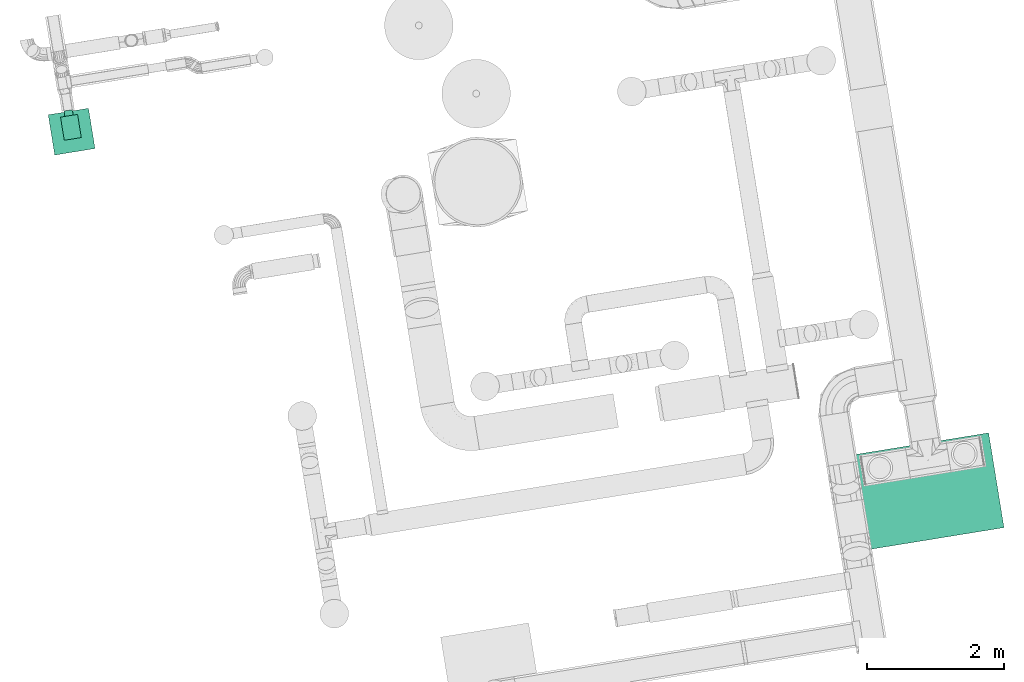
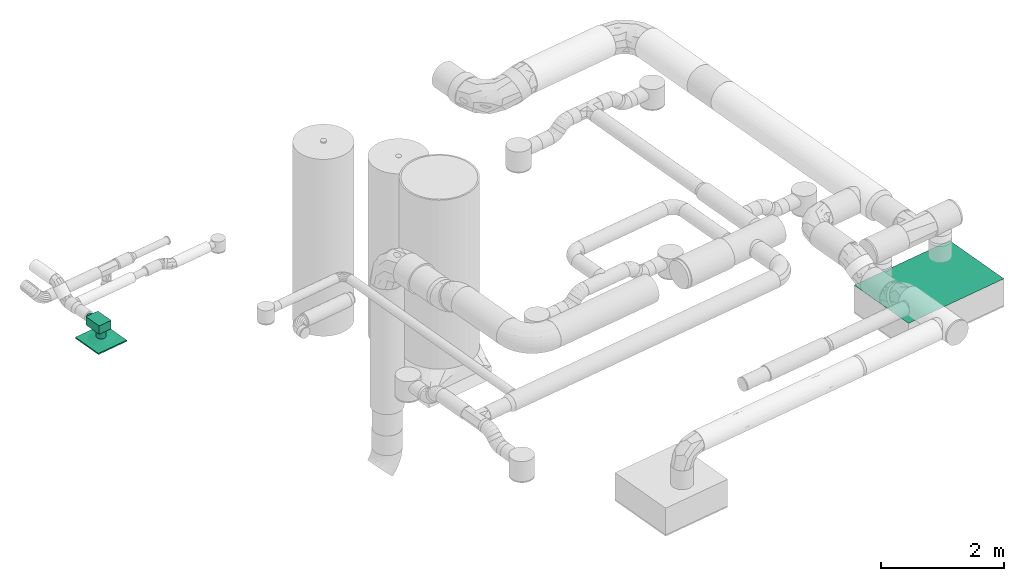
# One storey, part 27 of 39: 1 flow fitting, 1 flow terminal.
"""IFC2X3 building model written with IfcOpenShell, lengths in millimetres."""

from ifc_helpers import new_model, entity, si_unit, converted_unit, derived_unit, direction, frame, origin, origin_with_axes, place, context, subcontext, project, spatial, faceted_brep, source, transform, mapped, material, type_object, element, save


model = new_model("IFC2X3")

# Units and contexts
model_context = context("Model", 3, precision=0.01, world=origin(), true_north=direction((6.12323399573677e-17, 1.0)))
plan_context = context("Plan", 3, precision=1e-05, world=origin_with_axes())
body_context = subcontext(model_context, "Body", "Model", "MODEL_VIEW")
ifc_project = project(units=[converted_unit("PLANEANGLEUNIT", "DEGREE", entity("IfcPositiveLengthMeasure", 0.0174532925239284), si_unit("PLANEANGLEUNIT", "RADIAN"), dimensions=[0, 0, 0, 0, 0, 0, 0]), si_unit("AREAUNIT", "SQUARE_METRE"), si_unit("LENGTHUNIT", "METRE", prefix="MILLI"), si_unit("MASSUNIT", "GRAM", prefix="KILO"), si_unit("POWERUNIT", "WATT"), si_unit("PRESSUREUNIT", "PASCAL", prefix="KILO"), si_unit("FORCEUNIT", "NEWTON", prefix="KILO"), si_unit("ELECTRICVOLTAGEUNIT", "VOLT"), si_unit("ELECTRICCURRENTUNIT", "AMPERE"), si_unit("THERMODYNAMICTEMPERATUREUNIT", "DEGREE_CELSIUS"), si_unit("TIMEUNIT", "SECOND"), si_unit("VOLUMEUNIT", "CUBIC_METRE"), derived_unit("LINEARVELOCITYUNIT", [(si_unit("LENGTHUNIT", "METRE"), 1), (si_unit("TIMEUNIT", "SECOND"), -1)]), derived_unit("VOLUMETRICFLOWRATEUNIT", [(si_unit("VOLUMEUNIT", "CUBIC_METRE"), 1), (si_unit("TIMEUNIT", "SECOND"), -1)]), derived_unit("THERMALTRANSMITTANCEUNIT", [(si_unit("POWERUNIT", "WATT"), 1), (si_unit("THERMODYNAMICTEMPERATUREUNIT", "KELVIN"), -1), (si_unit("AREAUNIT", "SQUARE_METRE"), -1)]), derived_unit("SOUNDPRESSUREUNIT", [(si_unit("PRESSUREUNIT", "PASCAL"), 1)])], contexts=[model_context, plan_context])

# Site, building, storey
site_placement = place(None, frame((-0.00071070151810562, 0.00438415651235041, 0.0), z_axis=(0.0, 0.0, 1.0), x_axis=(-0.160236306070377, 0.987078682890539, 0.0)))
site = spatial("IfcSite", under=ifc_project, at=site_placement, Name="Default", CompositionType="ELEMENT")
building_placement = place(site_placement, origin_with_axes())
building = spatial("IfcBuilding", under=site, at=building_placement, CompositionType="ELEMENT")
storey_placement = place(building_placement, frame((0.0, 0.0, 50999.9999999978), z_axis=(0.0, 0.0, 1.0), x_axis=(1.0, 0.0, 0.0)))
storey = spatial("IfcBuildingStorey", under=building, at=storey_placement, Name="Nivå D", CompositionType="ELEMENT", Elevation=50999.9999999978)

# Flow fitting
ifc_material_1 = material(Name="Material_Duct")
duct_fitting_type = type_object("IfcDuctFittingType", Name="magicirc_multi_shape_trans_001:magicirc_multi_shape_trans_001", PredefinedType="NOTDEFINED", material=ifc_material_1)
shared_shape_1 = source(origin(), body_context, "Body", "Brep", [
    faceted_brep([(10.0, -408.236000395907, -800.859971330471), (10.0, -389.24300019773, -792.992813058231), (10.0, -370.249999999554, -785.125654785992), (10.0, -353.940340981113, -772.610813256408), (10.0, -337.630681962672, -760.095971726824), (10.0, -325.115840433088, -743.786312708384), (10.0, -312.600998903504, -727.476653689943), (10.0, -304.733840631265, -708.483653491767), (10.0, -296.866682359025, -689.49065329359), (10.0, -293.664645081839, -665.168765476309), (10.0, -291.499999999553, -648.726653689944), (10.0, -292.442435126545, -641.568148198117), (10.0, -293.384870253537, -634.40964270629), (10.0, -295.269740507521, -620.092631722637), (10.0, -296.866682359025, -607.962654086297), (10.0, -304.733840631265, -588.96965388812), (10.0, -312.600998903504, -569.976653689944), (10.0, -325.115840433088, -553.666994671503), (10.0, -337.630681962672, -537.357335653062), (10.0, -353.940340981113, -524.842494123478), (10.0, -370.249999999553, -512.327652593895), (10.0, -389.24300019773, -504.460494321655), (10.0, -408.236000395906, -496.593336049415), (10.0, -420.36598070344, -494.996393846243), (10.0, -434.682990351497, -493.111523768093), (10.0, -441.841495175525, -492.169088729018), (10.0, -449.0, -491.226653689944), (10.0, -472.831727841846, -494.364160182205), (10.0, -489.763999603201, -496.593336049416), (10.0, -508.756999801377, -504.460494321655), (10.0, -527.749999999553, -512.327652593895), (10.0, -544.059659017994, -524.842494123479), (10.0, -560.369318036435, -537.357335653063), (10.0, -572.884159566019, -553.666994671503), (10.0, -585.399001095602, -569.976653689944), (10.0, -593.266159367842, -588.969653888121), (10.0, -601.133317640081, -607.962654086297), (10.0, -603.362493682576, -624.894927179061), (10.0, -606.499999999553, -648.726653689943), (10.0, -604.512339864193, -663.824431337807), (10.0, -602.822828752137, -676.657542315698), (10.0, -601.133317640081, -689.49065329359), (10.0, -593.266159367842, -708.483653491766), (10.0, -585.399001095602, -727.476653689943), (10.0, -572.884159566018, -743.786312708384), (10.0, -560.369318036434, -760.095971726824), (10.0, -544.059659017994, -772.610813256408), (10.0, -527.749999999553, -785.125654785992), (10.0, -508.756999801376, -792.992813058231), (10.0, -489.7639996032, -800.859971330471), (10.0, -476.930888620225, -802.549482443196), (10.0, -464.09777763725, -804.238993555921), (10.0, -449.0, -806.226653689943), (10.0, -432.557887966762, -804.062008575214), (0.0, -700.0, -1000.0), (0.0, -700.0, 1000.0), (0.0, 700.0, 1000.0), (0.0, 700.0, -1000.0), (8.87119283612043, -191.523945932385, -406.090191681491), (8.38298276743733, -178.578081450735, -280.779878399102), (6.9052132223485, -16.595429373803, -61.4888049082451), (6.62671769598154, -3.52731753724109, -5.71487937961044), (8.73477954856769, -167.537348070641, -419.974419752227), (7.43656285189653, -37.3352067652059, -226.085938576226), (8.31335905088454, -127.847040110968, -340.247608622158), (8.31335887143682, -224.806879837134, -243.287722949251), (8.69743482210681, -279.219172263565, -298.469728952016), (6.58208406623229, -56.281459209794, 18.4620803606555), (0.791042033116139, 609.109270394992, 882.037703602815), (0.791041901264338, 621.568195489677, 869.578813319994), (8.42349372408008, -154.608174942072, -319.698946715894), (8.45260664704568, -170.068641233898, -307.031566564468), (6.90521322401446, -3.3926975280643, -77.4467057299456), (6.86856623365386, -66.6592055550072, -26.6329352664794), (8.29104190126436, -122.056804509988, -366.966176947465), (9.57276047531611, -249.139201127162, -578.286534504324), (9.14552095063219, -206.778402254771, -507.846415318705), (7.43387442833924, -43.9750550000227, -186.0250925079), (8.29104203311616, -252.640729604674, -236.382286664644), (9.14552101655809, -350.820364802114, -363.804470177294), (9.57276050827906, -399.910182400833, -427.515561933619), (8.16972329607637, -174.705252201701, -235.333883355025), (5.48631351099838, 138.040871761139, 148.23496955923), (5.26671484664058, 172.79384863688, 160.057768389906), (4.08351727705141, 288.948479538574, 354.22914937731), (5.40344816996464, 133.495325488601, 174.60692595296), (6.70490584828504, 25.4338196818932, -61.0830856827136), (4.87852590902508, 169.524880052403, 266.373950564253), (6.32485514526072, 6.97394221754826, 50.9473506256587), (3.16416813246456, 336.437081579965, 528.150814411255), (3.36174433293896, 335.979520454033, 493.788579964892), (1.58208406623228, 518.218540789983, 764.075407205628), (6.58208380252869, 47.3863909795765, -85.2057002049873), (7.04205119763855, -0.108284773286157, -140.65944389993), (4.87312570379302, 216.829586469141, 196.554776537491), (6.13622315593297, 89.3907427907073, 8.82077472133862), (3.16416760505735, 386.272781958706, 478.315253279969), (8.6805172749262, -243.094320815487, -305.706217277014), (4.01864711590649, 238.257446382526, 400.728630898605), (4.87312609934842, 140.077811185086, 273.306447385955), (2.40707046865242, 448.292176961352, 631.758474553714), (4.02414246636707, 284.165325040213, 379.553891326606), (2.89260793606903, 407.586394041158, 544.992751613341), (1.58208380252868, 543.136390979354, 739.157626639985), (8.81588238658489, -174.094738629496, -690.321549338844), (7.63176477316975, -56.6894772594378, -731.916444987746), (6.44764715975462, 60.7157841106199, -773.511340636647), (5.26352954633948, 178.121045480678, -815.106236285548), (3.94764715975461, 308.590784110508, -861.329677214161), (2.63176477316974, 439.060522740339, -907.553118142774), (1.31588238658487, 569.53026137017, -953.776559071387), (7.3129807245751, -33.0984485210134, -785.332821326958), (6.52258401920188, 40.617638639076, -820.298992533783), (7.67005240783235, -63.9348298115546, -759.232226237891), (4.08972780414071, 279.901153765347, -897.179164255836), (6.44764694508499, -40.8346339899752, -875.061787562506), (7.50672194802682, -136.407607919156, -851.619572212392), (5.26352926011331, 95.2204880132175, -898.006832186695), (7.44610997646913, -115.795415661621, -848.767729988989), (7.63176463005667, -176.889755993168, -852.116742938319), (8.81588231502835, -312.944877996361, -829.171698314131), (7.8393203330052, -142.828834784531, -833.672379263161), (7.5882618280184, -92.6932225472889, -822.951748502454), (6.66405592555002, -10.0777931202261, -854.918094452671), (4.97838207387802, 175.740058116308, -887.311144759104), (7.45592299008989, -66.6894193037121, -813.529933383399), (1.31588231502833, 548.805122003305, -974.501708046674), (3.94764694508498, 246.415366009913, -923.505124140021), (2.63176463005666, 397.610244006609, -949.003416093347), (8.8014278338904, -479.084161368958, -829.451787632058), (7.60285566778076, -509.168322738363, -852.676921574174), (6.40428350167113, -539.252484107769, -875.90205551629), (5.2057113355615, -569.336645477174, -899.127189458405), (3.90428350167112, -602.00248410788, -924.345392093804), (2.60285566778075, -634.668322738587, -949.563594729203), (1.30142783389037, -667.334161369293, -974.781797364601), (3.90428338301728, -663.494950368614, -862.852931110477), (5.0, -626.712217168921, -883.316247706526), (7.6028555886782, -628.913300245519, -732.93194758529), (6.40428338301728, -640.119950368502, -775.034594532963), (8.80142779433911, -617.706650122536, -690.829300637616), (2.60285558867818, -675.663300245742, -908.568620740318), (1.30142779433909, -687.831650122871, -954.284310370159), (5.20571117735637, -651.326600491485, -817.137241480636), (8.46303051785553, -620.870664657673, -395.322398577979), (7.69454577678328, -628.055996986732, -268.620271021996), (6.92606103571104, -635.241329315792, -141.918143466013), (6.15757629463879, -642.426661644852, -15.2160159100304), (5.38909155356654, -649.611993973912, 111.486111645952), (3.85212207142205, -663.982658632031, 364.890366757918), (2.88909155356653, -672.986993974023, 523.667775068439), (1.92606103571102, -681.991329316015, 682.44518337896), (8.32928795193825, -521.525637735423, -245.70213410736), (7.55179707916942, -622.095443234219, -204.070451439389), (2.54794245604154, -664.422908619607, 608.29019454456), (1.92606081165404, -651.655873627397, 712.780678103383), (8.32928777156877, -618.504645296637, -342.681110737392), (8.44176230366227, -592.037292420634, -308.886665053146), (7.7044279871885, -592.740441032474, -184.764964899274), (6.44616548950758, -596.148709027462, 20.5692441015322), (5.40963137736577, -624.266450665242, 168.544197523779), (8.1337667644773, -562.145515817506, -231.421650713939), (8.40441956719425, -571.761415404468, -282.313126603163), (8.46303040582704, -487.577936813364, -262.029651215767), (7.69454560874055, -506.866905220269, -147.431149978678), (4.25282145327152, -650.893279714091, 332.948042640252), (6.92606081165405, -526.155873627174, -32.8326487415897), (6.9407022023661, -546.169176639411, -36.9327056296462), (7.55179750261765, -551.464348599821, -133.439427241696), (5.95308961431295, -571.808768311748, 109.823964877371), (6.25918936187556, -582.12632778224, 58.4702949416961), (4.58595475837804, -608.612874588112, 312.124163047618), (2.88909121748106, -627.483810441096, 569.171017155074), (4.12512820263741, -629.389131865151, 375.886491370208), (6.74581718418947, -626.95405275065, -67.2603542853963), (8.32928778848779, -602.797414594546, -304.740036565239), (6.65857552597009, -620.082005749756, -39.5738289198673), (5.85837676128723, -642.729456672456, 55.4245872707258), (5.07825555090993, -648.307328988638, 188.344577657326), (3.98200615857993, -646.412310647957, 385.714168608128), (3.85212162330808, -603.311747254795, 425.561356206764), (5.38909121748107, -564.733810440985, 196.364353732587)], [[[0, 1, 2, 3, 4, 5, 6, 7, 8, 9, 10, 11, 12, 13, 14, 15, 16, 17, 18, 19, 20, 21, 22, 23, 24, 25, 26, 27, 28, 29, 30, 31, 32, 33, 34, 35, 36, 37, 38, 39, 40, 41, 42, 43, 44, 45, 46, 47, 48, 49, 50, 51, 52, 53]], [[54, 55, 56, 57]], [[58, 16, 15]], [[59, 60, 61]], [[62, 63, 64]], [[21, 65, 22]], [[66, 65, 67]], [[56, 68, 69]], [[70, 71, 17]], [[71, 70, 72]], [[65, 73, 67]], [[74, 62, 13]], [[12, 11, 10, 75, 76, 74, 13]], [[70, 58, 77]], [[78, 23, 66]], [[24, 23, 78, 79, 80, 26, 25]], [[81, 59, 61]], [[82, 83, 84]], [[60, 82, 85]], [[72, 86, 83]], [[61, 87, 88]], [[89, 90, 91]], [[92, 93, 64]], [[15, 14, 64]], [[93, 94, 95]], [[58, 15, 64]], [[62, 74, 63]], [[96, 83, 94]], [[94, 93, 92]], [[82, 72, 83]], [[16, 58, 70]], [[77, 58, 64]], [[17, 71, 18]], [[86, 72, 70]], [[17, 16, 70]], [[18, 71, 59]], [[71, 72, 60]], [[20, 19, 81]], [[59, 81, 19]], [[71, 60, 59]], [[61, 60, 85]], [[81, 97, 20]], [[61, 88, 81]], [[97, 21, 20]], [[98, 99, 88]], [[22, 65, 66]], [[73, 88, 99]], [[97, 81, 88]], [[87, 89, 98]], [[87, 90, 89]], [[85, 90, 87]], [[91, 90, 100]], [[90, 101, 100]], [[84, 96, 102]], [[101, 90, 85]], [[100, 69, 68]], [[103, 100, 102]], [[19, 18, 59]], [[61, 85, 87]], [[101, 85, 82]], [[84, 101, 82]], [[72, 82, 60]], [[102, 100, 101]], [[84, 83, 96]], [[97, 65, 21]], [[73, 65, 97]], [[67, 73, 99]], [[88, 73, 97]], [[93, 77, 64]], [[95, 77, 93]], [[77, 95, 86]], [[95, 94, 83]], [[63, 92, 64]], [[62, 14, 13]], [[14, 62, 64]], [[83, 86, 95]], [[77, 86, 70]], [[22, 66, 23]], [[78, 66, 67]], [[87, 98, 88]], [[68, 91, 100]], [[103, 102, 96]], [[69, 100, 103]], [[84, 102, 101]], [[57, 56, 69, 103, 96, 94, 92, 63, 74, 76, 75, 10, 104, 105, 106, 107, 108, 109, 110]], [[108, 107, 111]], [[112, 111, 6]], [[9, 8, 106, 105, 104, 10]], [[107, 106, 113]], [[109, 112, 114]], [[115, 116, 0]], [[116, 117, 118]], [[119, 115, 0, 53, 52, 120]], [[2, 118, 121]], [[111, 113, 7]], [[122, 123, 124]], [[115, 117, 116]], [[109, 108, 112]], [[8, 113, 106]], [[7, 113, 8]], [[108, 111, 112]], [[110, 109, 114, 57]], [[112, 5, 125]], [[57, 114, 126]], [[125, 114, 112]], [[1, 0, 116]], [[2, 1, 118]], [[121, 118, 127]], [[122, 3, 123]], [[125, 4, 122]], [[128, 123, 127]], [[118, 117, 127]], [[116, 118, 1]], [[4, 125, 5]], [[112, 6, 5]], [[125, 122, 124]], [[114, 125, 124]], [[124, 126, 114]], [[3, 121, 123]], [[122, 4, 3]], [[124, 123, 128]], [[6, 111, 7]], [[126, 124, 128]], [[107, 113, 111]], [[2, 121, 3]], [[123, 121, 127]], [[54, 57, 126, 128, 127, 117, 115, 119, 120, 52, 129, 130, 131, 132, 133, 134, 135]], [[136, 43, 42]], [[135, 46, 137]], [[50, 49, 131, 130, 129, 52, 51]], [[48, 131, 49]], [[138, 139, 41, 40, 39, 38, 140]], [[44, 43, 141]], [[142, 137, 44]], [[143, 136, 42, 139]], [[137, 45, 44]], [[41, 139, 42]], [[48, 133, 132, 131]], [[47, 133, 48]], [[135, 134, 46]], [[134, 47, 46]], [[135, 137, 54]], [[45, 137, 46]], [[141, 142, 44]], [[142, 54, 137]], [[136, 141, 43]], [[47, 134, 133]], [[144, 145, 146, 147, 148, 149, 150, 151, 55, 54, 142, 141, 136, 143, 139, 138, 140, 38]], [[152, 29, 28]], [[34, 153, 35]], [[55, 154, 155]], [[36, 35, 156]], [[36, 145, 144, 38, 37]], [[33, 32, 157]], [[158, 159, 160]], [[161, 159, 162]], [[27, 26, 163, 164, 28]], [[151, 165, 154]], [[166, 167, 152]], [[168, 169, 170]], [[171, 172, 173]], [[30, 29, 168]], [[166, 152, 164]], [[159, 161, 170]], [[170, 161, 168]], [[152, 168, 29]], [[168, 152, 167]], [[153, 147, 156]], [[174, 175, 176]], [[174, 177, 153]], [[176, 157, 158]], [[153, 148, 147]], [[156, 35, 153]], [[165, 150, 178]], [[151, 154, 55]], [[154, 173, 155]], [[179, 165, 160]], [[179, 160, 173]], [[178, 174, 176]], [[171, 180, 172]], [[160, 159, 173]], [[161, 162, 31]], [[160, 165, 176]], [[33, 175, 34]], [[158, 160, 176]], [[30, 161, 31]], [[32, 162, 158]], [[161, 30, 168]], [[157, 175, 33]], [[175, 153, 34]], [[153, 175, 174]], [[173, 159, 171]], [[181, 180, 169]], [[172, 155, 173]], [[178, 177, 174]], [[177, 149, 148]], [[149, 177, 178]], [[165, 151, 150]], [[165, 178, 176]], [[150, 149, 178]], [[175, 157, 176]], [[158, 157, 32]], [[171, 170, 169]], [[181, 169, 167]], [[168, 167, 169]], [[156, 145, 36]], [[28, 164, 152]], [[145, 156, 147, 146]], [[181, 167, 166]], [[153, 177, 148]], [[180, 171, 169]], [[170, 171, 159]], [[179, 154, 165]], [[154, 179, 173]], [[31, 162, 32]], [[158, 162, 159]], [[80, 79, 78, 67, 99, 98, 89, 91, 68, 56, 55, 155, 172, 180, 181, 166, 164, 163, 26]]]),
])
flow_fitting_placement = place(storey_placement, frame((771122.619644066, -601904.712231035, 2555.0), z_axis=(0.0, -1.0, 0.0), x_axis=(0.0, 0.0, 1.0)))
element("IfcFlowFitting", 1, at=flow_fitting_placement, inside=storey, type_object=duct_fitting_type, material=ifc_material_1, Name="magicirc_multi_shape_trans_001:magicirc_multi_shape_trans_001", ObjectType="magicirc_multi_shape_trans_001:magicirc_multi_shape_trans_001", context=body_context, shape_type="MappedRepresentation", body=[
    mapped(shared_shape_1, transform((0.0, 0.0, 0.0), scale=1.0)),
])

# Flow terminal
ifc_material_2 = material(Name="<Unnamed>")
air_terminal_type = type_object("IfcAirTerminalType", Name="TILLUFTSVENTIL -  - ST003T:TILLUFTSVENTIL - EAGLE Cb 160-600-1V+ALSd 125-160 - ST003T", PredefinedType="NOTDEFINED", material=ifc_material_2)
shared_shape_2 = source(origin(), body_context, "Body", "Brep", [
    faceted_brep([(95.4544226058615, 198.213150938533, 25.0), (137.16775640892, 172.002926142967, 25.0), (172.002926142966, 137.167756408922, 25.0), (198.213150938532, 95.4544226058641, 25.0), (214.484140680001, 48.9546054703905, 25.0), (220.0, 0.0, 25.0), (214.484140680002, -48.9546054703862, 25.0), (198.213150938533, -95.4544226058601, 25.0), (172.002926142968, -137.167756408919, 25.0), (137.167756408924, -172.002926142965, 25.0), (95.4544226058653, -198.213150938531, 25.0), (48.9546054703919, -214.484140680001, 25.0), (0.0, -220.0, 25.0), (-48.9546054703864, -214.484140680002, 25.0), (-95.4544226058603, -198.213150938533, 25.0), (-137.16775640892, -172.002926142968, 25.0), (-172.002926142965, -137.167756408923, 25.0), (-198.213150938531, -95.4544226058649, 25.0), (-214.484140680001, -48.9546054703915, 25.0), (-220.0, 0.0, 25.0), (-214.484140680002, 48.9546054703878, 25.0), (-198.213150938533, 95.4544226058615, 25.0), (-172.002926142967, 137.16775640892, 25.0), (-137.167756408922, 172.002926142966, 25.0), (-95.4544226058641, 198.213150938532, 25.0), (-48.9546054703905, 214.484140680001, 25.0), (0.0, 220.0, 25.0), (48.9546054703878, 214.484140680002, 25.0), (14.7600951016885, 83.7086590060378, 73.0), (-14.7600951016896, 83.7086590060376, 73.0), (-42.5000000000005, 73.612159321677, 73.0), (-65.1137776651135, 54.6369468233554, 73.0), (-79.8738727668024, 29.0717121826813, 73.0), (-85.0, 0.0, 73.0), (-79.8738727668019, -29.0717121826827, 73.0), (-65.1137776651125, -54.6369468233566, 73.0), (-42.4999999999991, -73.6121593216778, 73.0), (-14.760095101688, -83.7086590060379, 73.0), (14.7600951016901, -83.7086590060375, 73.0), (42.500000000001, -73.6121593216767, 73.0), (65.1137776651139, -54.636946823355, 73.0), (79.8738727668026, -29.0717121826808, 73.0), (85.0, 0.0, 73.0), (79.873872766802, 29.0717121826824, 73.0), (65.1137776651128, 54.6369468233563, 73.0), (42.4999999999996, 73.6121593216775, 73.0)], [[[0, 1, 2, 3, 4, 5, 6, 7, 8, 9, 10, 11, 12, 13, 14, 15, 16, 17, 18, 19, 20, 21, 22, 23, 24, 25, 26, 27]], [[28, 29, 30, 31, 32, 33, 34, 35, 36, 37, 38, 39, 40, 41, 42, 43, 44, 45]], [[32, 20, 33]], [[31, 21, 32]], [[24, 23, 30]], [[30, 23, 31]], [[24, 30, 29]], [[23, 22, 31]], [[32, 21, 20]], [[20, 19, 33]], [[25, 24, 29]], [[22, 21, 31]], [[29, 26, 25]], [[27, 26, 28]], [[28, 26, 29]], [[45, 0, 28]], [[3, 44, 43]], [[45, 44, 1]], [[4, 43, 42]], [[28, 0, 27]], [[45, 1, 0]], [[44, 2, 1]], [[44, 3, 2]], [[4, 3, 43]], [[42, 5, 4]], [[41, 6, 42]], [[40, 7, 41]], [[10, 9, 39]], [[39, 9, 40]], [[10, 39, 38]], [[9, 8, 40]], [[41, 7, 6]], [[6, 5, 42]], [[11, 10, 38]], [[8, 7, 40]], [[38, 12, 11]], [[13, 12, 37]], [[37, 12, 38]], [[36, 14, 37]], [[17, 35, 34]], [[36, 35, 15]], [[18, 34, 33]], [[37, 14, 13]], [[36, 15, 14]], [[35, 16, 15]], [[35, 17, 16]], [[18, 17, 34]], [[33, 19, 18]]]),
    faceted_brep([(-315.0, -31.2500000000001, 245.873412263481), (-315.0, -44.1941738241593, 255.805826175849), (-315.0, -54.1265877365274, 268.750000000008), (-315.0, -60.3703641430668, 283.823809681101), (-315.0, -62.5, 300.0), (-315.0, -60.3703641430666, 316.176190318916), (-315.0, -54.1265877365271, 331.250000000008), (-315.0, -44.1941738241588, 344.194173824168), (-315.0, -31.2499999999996, 354.126587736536), (-315.0, -16.1761903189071, 360.370364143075), (-315.0, 0.0, 362.500000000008), (-315.0, 16.176190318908, 360.370364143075), (-315.0, 31.2500000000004, 354.126587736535), (-315.0, 44.1941738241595, 344.194173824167), (-315.0, 54.1265877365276, 331.250000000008), (-315.0, 60.3703641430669, 316.176190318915), (-315.0, 62.5, 300.0), (-315.0, 60.3703641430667, 283.8238096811), (-315.0, 54.1265877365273, 268.750000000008), (-315.0, 44.194173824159, 255.805826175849), (-315.0, 31.2499999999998, 245.873412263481), (-315.0, 16.1761903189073, 239.629635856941), (-315.0, 0.0, 237.500000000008), (-315.0, -16.1761903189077, 239.629635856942), (-235.0, 31.2500000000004, 354.126587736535), (-235.0, 16.176190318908, 360.370364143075), (-235.0, 0.0, 362.500000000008), (-235.0, -16.1761903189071, 360.370364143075), (-235.0, -31.2499999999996, 354.126587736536), (-235.0, -44.1941738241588, 344.194173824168), (-235.0, -54.1265877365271, 331.250000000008), (-235.0, -60.3703641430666, 316.176190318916), (-235.0, -62.5, 300.0), (-235.0, -60.3703641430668, 283.823809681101), (-235.0, -54.1265877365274, 268.750000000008), (-235.0, -44.1941738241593, 255.805826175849), (-235.0, -31.2500000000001, 245.873412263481), (-235.0, -16.1761903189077, 239.629635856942), (-235.0, 0.0, 237.500000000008), (-235.0, 16.1761903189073, 239.629635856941), (-235.0, 31.2499999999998, 245.873412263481), (-235.0, 44.194173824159, 255.805826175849), (-235.0, 54.1265877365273, 268.750000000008), (-235.0, 60.3703641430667, 283.8238096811), (-235.0, 62.5, 300.0), (-235.0, 60.3703641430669, 316.176190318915), (-235.0, 54.1265877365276, 331.250000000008), (-235.0, 44.1941738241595, 344.194173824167)], [[[0, 1, 2, 3, 4, 5, 6, 7, 8, 9, 10, 11, 12, 13, 14, 15, 16, 17, 18, 19, 20, 21, 22, 23]], [[24, 25, 26, 27, 28, 29, 30, 31, 32, 33, 34, 35, 36, 37, 38, 39, 40, 41, 42, 43, 44, 45, 46, 47]], [[45, 15, 14, 46]], [[13, 47, 46, 14]], [[24, 12, 11, 25]], [[13, 12, 24, 47]], [[25, 11, 10, 26]], [[15, 45, 44, 16]], [[27, 9, 8, 28]], [[7, 29, 28, 8]], [[30, 6, 5, 31]], [[7, 6, 30, 29]], [[31, 5, 4, 32]], [[9, 27, 26, 10]], [[33, 3, 2, 34]], [[1, 35, 34, 2]], [[36, 0, 23, 37]], [[1, 0, 36, 35]], [[37, 23, 22, 38]], [[3, 33, 32, 4]], [[39, 21, 20, 40]], [[19, 41, 40, 20]], [[42, 18, 17, 43]], [[19, 18, 42, 41]], [[43, 17, 16, 44]], [[21, 39, 38, 22]]]),
    faceted_brep([(107.0, 126.0, 391.0), (-235.0, 126.0, 391.0), (-235.0, -126.0, 391.0), (107.0, -126.0, 391.0), (107.0, 126.0, 225.0), (107.0, -126.0, 225.0), (-235.0, -126.0, 225.0), (-235.0, 126.0, 225.0)], [[[0, 1, 2, 3]], [[4, 5, 6, 7]], [[1, 0, 4, 7]], [[2, 1, 7, 6]], [[3, 2, 6, 5]], [[0, 3, 5, 4]]]),
    faceted_brep([(-77.2740661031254, -20.7055236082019, 225.0), (-69.282032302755, -40.0, 225.0), (-56.5685424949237, -56.5685424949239, 225.0), (-40.0, -69.2820323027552, 225.0), (-20.7055236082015, -77.2740661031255, 225.0), (0.0, -80.0, 225.0), (20.7055236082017, -77.2740661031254, 225.0), (40.0, -69.2820323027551, 225.0), (56.5685424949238, -56.5685424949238, 225.0), (69.2820323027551, -40.0, 225.0), (77.2740661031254, -20.7055236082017, 225.0), (80.0, 0.0, 225.0), (77.2740661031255, 20.7055236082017, 225.0), (69.2820323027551, 40.0, 225.0), (56.5685424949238, 56.5685424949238, 225.0), (40.0, 69.2820323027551, 225.0), (20.7055236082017, 77.2740661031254, 225.0), (0.0, 80.0, 225.0), (-20.7055236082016, 77.2740661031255, 225.0), (-40.0, 69.2820323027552, 225.0), (-56.5685424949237, 56.5685424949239, 225.0), (-69.282032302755, 40.0, 225.0), (-77.2740661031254, 20.7055236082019, 225.0), (-80.0, 0.0, 225.0), (77.2740661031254, -20.7055236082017, 73.0), (69.2820323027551, -40.0, 73.0), (56.5685424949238, -56.5685424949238, 73.0), (40.0, -69.2820323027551, 73.0), (20.7055236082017, -77.2740661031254, 73.0), (0.0, -80.0, 73.0), (-20.7055236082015, -77.2740661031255, 73.0), (-40.0, -69.2820323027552, 73.0), (-56.5685424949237, -56.5685424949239, 73.0), (-69.282032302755, -40.0, 73.0), (-77.2740661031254, -20.7055236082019, 73.0), (-80.0, 0.0, 73.0), (-77.2740661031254, 20.7055236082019, 73.0), (-69.282032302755, 40.0, 73.0), (-56.5685424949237, 56.5685424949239, 73.0), (-40.0, 69.2820323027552, 73.0), (-20.7055236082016, 77.2740661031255, 73.0), (0.0, 80.0, 73.0), (20.7055236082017, 77.2740661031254, 73.0), (40.0, 69.2820323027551, 73.0), (56.5685424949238, 56.5685424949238, 73.0), (69.2820323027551, 40.0, 73.0), (77.2740661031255, 20.7055236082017, 73.0), (80.0, 0.0, 73.0)], [[[0, 1, 2, 3, 4, 5, 6, 7, 8, 9, 10, 11, 12, 13, 14, 15, 16, 17, 18, 19, 20, 21, 22, 23]], [[24, 25, 26, 27, 28, 29, 30, 31, 32, 33, 34, 35, 36, 37, 38, 39, 40, 41, 42, 43, 44, 45, 46, 47]], [[0, 34, 33, 1]], [[32, 2, 1, 33]], [[3, 31, 30, 4]], [[32, 31, 3, 2]], [[4, 30, 29, 5]], [[34, 0, 23, 35]], [[6, 28, 27, 7]], [[26, 8, 7, 27]], [[9, 25, 24, 10]], [[26, 25, 9, 8]], [[10, 24, 47, 11]], [[28, 6, 5, 29]], [[12, 46, 45, 13]], [[44, 14, 13, 45]], [[15, 43, 42, 16]], [[44, 43, 15, 14]], [[16, 42, 41, 17]], [[46, 12, 11, 47]], [[18, 40, 39, 19]], [[38, 20, 19, 39]], [[21, 37, 36, 22]], [[38, 37, 21, 20]], [[22, 36, 35, 23]], [[40, 18, 17, 41]]]),
    faceted_brep([(297.5, 297.5, 0.0), (297.5, -297.5, 0.0), (-297.5, -297.5, 0.0), (-297.5, 297.5, 0.0), (297.5, 297.5, 25.0), (-297.5, 297.5, 25.0), (-297.5, -297.5, 25.0), (297.5, -297.5, 25.0)], [[[0, 1, 2, 3]], [[4, 5, 6, 7]], [[5, 4, 0, 3]], [[6, 5, 3, 2]], [[7, 6, 2, 1]], [[4, 7, 1, 0]]]),
])
flow_terminal_placement = place(storey_placement, frame((778300.119644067, -590409.98173883, 2600.0), z_axis=(0.0, 0.0, 1.0), x_axis=(-1.0, 0.0, 0.0)))
element("IfcFlowTerminal", 2, at=flow_terminal_placement, inside=storey, type_object=air_terminal_type, material=ifc_material_2, Name="TILLUFTSVENTIL -  - ST003T:TILLUFTSVENTIL - EAGLE Cb 160-600-1V+ALSd 125-160 - ST003T", ObjectType="TILLUFTSVENTIL -  - ST003T:TILLUFTSVENTIL - EAGLE Cb 160-600-1V+ALSd 125-160 - ST003T", context=body_context, shape_type="MappedRepresentation", body=[
    mapped(shared_shape_2, transform((0.0, 0.0, 0.0), scale=1.0)),
])

save(model, "model.ifc")
